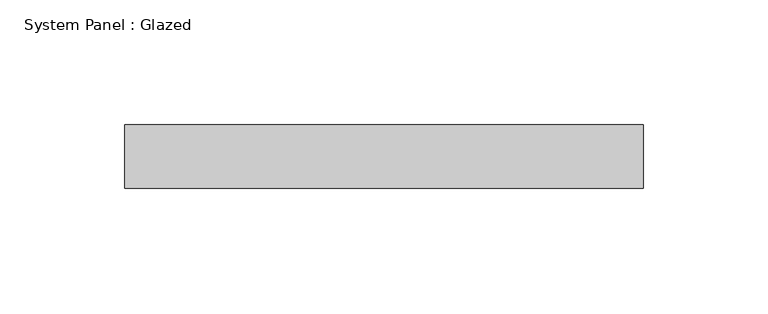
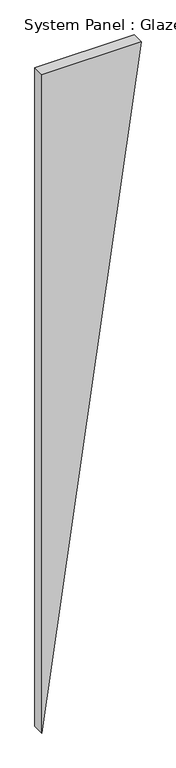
"""IFC4 building model written with IfcOpenShell, lengths in millimetres: plate geometry, System Panel : Glazed."""

from ifc_helpers import new_model, si_unit, frame, origin, place, context, project, spatial, polyline, outline, extrude, source, transform, mapped, element, save


def system_panel_glazed_bbdb12b6(model_context):
    return source(origin(), model_context, "Body", "SweptSolid", [
        extrude(outline(polyline([(1458.2427579, -103.8401631), (0.0, -103.8401631), (1458.2427579, 103.8401631), (1458.2427579, -103.8401631)])), frame((0.0, 19.05, 0.0), z_axis=(0.0, 1.0, 0.0), x_axis=(0.0, 0.0, 1.0)), (0.0, 0.0, 1.0), 25.4),
    ])


if __name__ == "__main__":
    model = new_model("IFC4")
    model_context = context("Model", 3, world=origin())
    ifc_project = project(units=[si_unit("LENGTHUNIT", "METRE", prefix="MILLI")], contexts=[model_context])
    site = spatial("IfcSite", under=ifc_project)
    building = spatial("IfcBuilding", under=site)
    placement = place(None, origin())
    system_panel_glazed_shape = system_panel_glazed_bbdb12b6(model_context)
    element("IfcPlate", 1, ObjectType="System Panel : Glazed", at=placement, inside=building, context=model_context, shape_type="MappedRepresentation", body=[
        mapped(system_panel_glazed_shape, transform((0.0, 0.0, 0.0), x_axis=(1.0, 0.0, 0.0), y_axis=(0.0, 1.0, 0.0), z_axis=(0.0, 0.0, 1.0))),
    ])
    save(model, "model.ifc")
